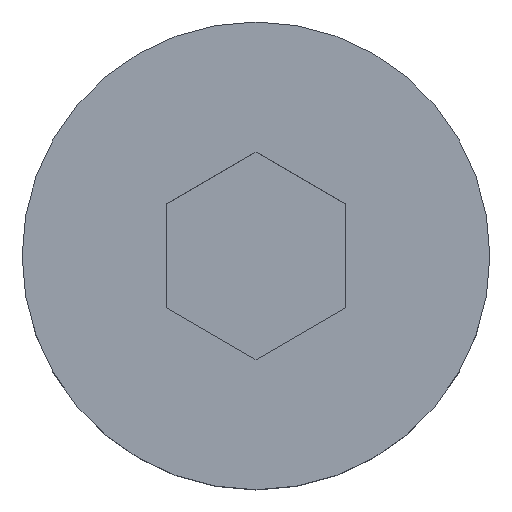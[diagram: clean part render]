
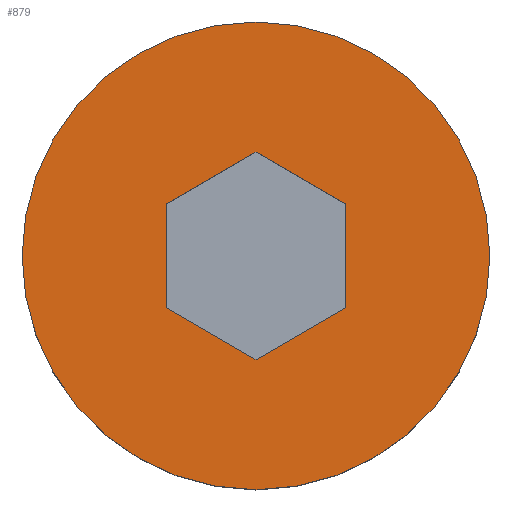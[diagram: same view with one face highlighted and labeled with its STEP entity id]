
A CAD part, top view. The second image highlights one B-rep face of the part: STEP entity #879.
In plain terms, the highlighted planar face has unit normal (0, 0, 1).
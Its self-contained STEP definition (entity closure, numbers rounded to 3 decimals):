
#36 = DIRECTION ( 'NONE',  ( -1., 0., 0. ) ) ;
#59 = CARTESIAN_POINT ( 'NONE',  ( -13., 0., 8. ) ) ;
#84 = VECTOR ( 'NONE', #305, 1000. ) ;
#90 = EDGE_LOOP ( 'NONE', ( #699, #442 ) ) ;
#102 = CARTESIAN_POINT ( 'NONE',  ( 12.25, 1.299, 8. ) ) ;
#128 = VERTEX_POINT ( 'NONE', #59 ) ;
#140 = VERTEX_POINT ( 'NONE', #1168 ) ;
#142 = LINE ( 'NONE', #102, #178 ) ;
#159 = CARTESIAN_POINT ( 'NONE',  ( 12.25, -1.299, 8. ) ) ;
#162 = EDGE_CURVE ( 'NONE', #140, #278, #425, .T. ) ;
#178 = VECTOR ( 'NONE', #194, 1000. ) ;
#194 = DIRECTION ( 'NONE',  ( 0.866, 0.5, 0. ) ) ;
#207 = VERTEX_POINT ( 'NONE', #658 ) ;
#212 = EDGE_CURVE ( 'NONE', #207, #448, #974, .T. ) ;
#223 = CARTESIAN_POINT ( 'NONE',  ( -5., 2.887, 8. ) ) ;
#231 = EDGE_CURVE ( 'NONE', #448, #977, #142, .T. ) ;
#254 = EDGE_CURVE ( 'NONE', #128, #642, #919, .T. ) ;
#278 = VERTEX_POINT ( 'NONE', #610 ) ;
#305 = DIRECTION ( 'NONE',  ( -0.866, -0.5, 0. ) ) ;
#316 = FACE_BOUND ( 'NONE', #595, .T. ) ;
#365 = ORIENTED_EDGE ( 'NONE', *, *, #828, .F. ) ;
#391 = DIRECTION ( 'NONE',  ( 0., 0., 1. ) ) ;
#425 = LINE ( 'NONE', #159, #994 ) ;
#434 = EDGE_CURVE ( 'NONE', #977, #140, #1007, .T. ) ;
#442 = ORIENTED_EDGE ( 'NONE', *, *, #254, .T. ) ;
#446 = DIRECTION ( 'NONE',  ( 0., 1., 0. ) ) ;
#448 = VERTEX_POINT ( 'NONE', #1087 ) ;
#471 = VECTOR ( 'NONE', #738, 1000. ) ;
#479 = DIRECTION ( 'NONE',  ( 0., 0., 1. ) ) ;
#500 = PLANE ( 'NONE',  #554 ) ;
#536 = LINE ( 'NONE', #675, #84 ) ;
#554 = AXIS2_PLACEMENT_3D ( 'NONE', #1147, #601, #36 ) ;
#571 = EDGE_CURVE ( 'NONE', #1173, #207, #979, .T. ) ;
#595 = EDGE_LOOP ( 'NONE', ( #365, #1073, #1023, #809, #1058, #913 ) ) ;
#601 = DIRECTION ( 'NONE',  ( 0., 0., -1. ) ) ;
#610 = CARTESIAN_POINT ( 'NONE',  ( 0., 5.774, 8. ) ) ;
#623 = AXIS2_PLACEMENT_3D ( 'NONE', #928, #391, #1033 ) ;
#624 = AXIS2_PLACEMENT_3D ( 'NONE', #1020, #479, #1115 ) ;
#642 = VERTEX_POINT ( 'NONE', #996 ) ;
#658 = CARTESIAN_POINT ( 'NONE',  ( -5., -2.887, 8. ) ) ;
#675 = CARTESIAN_POINT ( 'NONE',  ( 7.25, 9.959, 8. ) ) ;
#699 = ORIENTED_EDGE ( 'NONE', *, *, #989, .T. ) ;
#735 = CARTESIAN_POINT ( 'NONE',  ( 5., -2.887, 8. ) ) ;
#738 = DIRECTION ( 'NONE',  ( 0.866, -0.5, 0. ) ) ;
#765 = CIRCLE ( 'NONE', #624, 13. ) ;
#796 = DIRECTION ( 'NONE',  ( -0.866, 0.5, 0. ) ) ;
#799 = DIRECTION ( 'NONE',  ( 0., -1., 0. ) ) ;
#801 = CARTESIAN_POINT ( 'NONE',  ( 5., 0., 8. ) ) ;
#809 = ORIENTED_EDGE ( 'NONE', *, *, #231, .F. ) ;
#828 = EDGE_CURVE ( 'NONE', #278, #1173, #536, .T. ) ;
#879 = ADVANCED_FACE ( 'NONE', ( #963, #316 ), #500, .F. ) ;
#904 = VECTOR ( 'NONE', #446, 1000. ) ;
#913 = ORIENTED_EDGE ( 'NONE', *, *, #571, .F. ) ;
#919 = CIRCLE ( 'NONE', #623, 13. ) ;
#928 = CARTESIAN_POINT ( 'NONE',  ( 0., 0., 8. ) ) ;
#963 = FACE_OUTER_BOUND ( 'NONE', #90, .T. ) ;
#974 = LINE ( 'NONE', #1088, #471 ) ;
#977 = VERTEX_POINT ( 'NONE', #735 ) ;
#979 = LINE ( 'NONE', #987, #1013 ) ;
#987 = CARTESIAN_POINT ( 'NONE',  ( -5., 0., 8. ) ) ;
#989 = EDGE_CURVE ( 'NONE', #642, #128, #765, .T. ) ;
#994 = VECTOR ( 'NONE', #796, 1000. ) ;
#996 = CARTESIAN_POINT ( 'NONE',  ( 13., 0., 8. ) ) ;
#1007 = LINE ( 'NONE', #801, #904 ) ;
#1013 = VECTOR ( 'NONE', #799, 1000. ) ;
#1020 = CARTESIAN_POINT ( 'NONE',  ( 0., 0., 8. ) ) ;
#1023 = ORIENTED_EDGE ( 'NONE', *, *, #434, .F. ) ;
#1033 = DIRECTION ( 'NONE',  ( 1., 0., 0. ) ) ;
#1058 = ORIENTED_EDGE ( 'NONE', *, *, #212, .F. ) ;
#1073 = ORIENTED_EDGE ( 'NONE', *, *, #162, .F. ) ;
#1087 = CARTESIAN_POINT ( 'NONE',  ( 0., -5.774, 8. ) ) ;
#1088 = CARTESIAN_POINT ( 'NONE',  ( 7.25, -9.959, 8. ) ) ;
#1115 = DIRECTION ( 'NONE',  ( 1., 0., 0. ) ) ;
#1147 = CARTESIAN_POINT ( 'NONE',  ( 13., 0., 8. ) ) ;
#1168 = CARTESIAN_POINT ( 'NONE',  ( 5., 2.887, 8. ) ) ;
#1173 = VERTEX_POINT ( 'NONE', #223 ) ;
